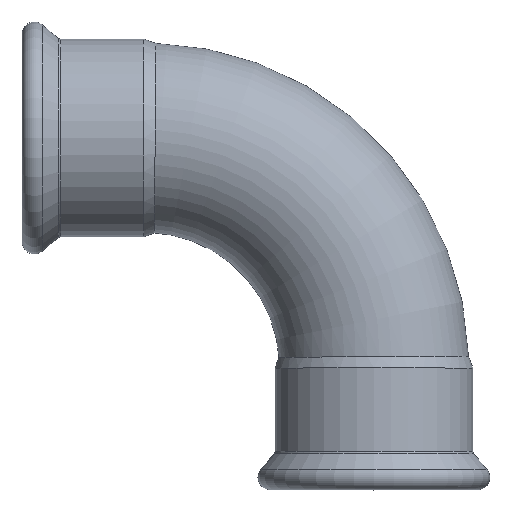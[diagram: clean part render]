
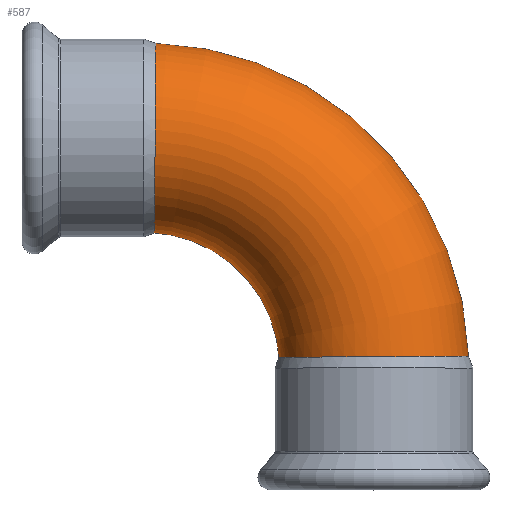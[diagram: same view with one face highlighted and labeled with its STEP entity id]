
A CAD part, top view. The second image highlights one B-rep face of the part: STEP entity #587.
In plain terms, the highlighted toroidal (fillet/blend) face has major radius 130 mm and minor radius 54 mm.
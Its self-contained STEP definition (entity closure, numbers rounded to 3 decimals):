
#496=CARTESIAN_POINT('',(0.0,0.0,0.0));
#497=DIRECTION('',(0.0,0.0,1.0));
#498=DIRECTION('',(0.725,-0.688,0.0));
#499=AXIS2_PLACEMENT_3D('',#496,#497,#498);
#500=TOROIDAL_SURFACE('',#499,130.,54.0);
#501=CARTESIAN_POINT('',(5.538,183.917,0.));
#502=VERTEX_POINT('',#501);
#503=CARTESIAN_POINT('',(5.538,183.917,0.));
#504=CARTESIAN_POINT('',(5.538,183.917,-7.024));
#505=CARTESIAN_POINT('',(5.534,182.546,-13.98));
#506=CARTESIAN_POINT('',(5.516,177.226,-26.956));
#507=CARTESIAN_POINT('',(5.502,173.336,-32.855));
#508=CARTESIAN_POINT('',(5.466,163.541,-42.819));
#509=CARTESIAN_POINT('',(5.443,157.737,-46.797));
#510=CARTESIAN_POINT('',(5.387,144.97,-52.316));
#511=CARTESIAN_POINT('',(5.354,138.131,-53.817));
#512=CARTESIAN_POINT('',(5.278,124.277,-54.151));
#513=CARTESIAN_POINT('',(5.237,117.39,-52.988));
#514=CARTESIAN_POINT('',(5.147,104.378,-48.11));
#515=CARTESIAN_POINT('',(5.099,98.38,-44.42));
#516=CARTESIAN_POINT('',(5.008,87.985,-34.841));
#517=CARTESIAN_POINT('',(4.965,83.737,-28.991));
#518=CARTESIAN_POINT('',(4.901,77.776,-15.99));
#519=CARTESIAN_POINT('',(4.882,76.117,-8.971));
#520=CARTESIAN_POINT('',(4.876,75.638,5.125));
#521=CARTESIAN_POINT('',(4.89,76.751,12.06));
#522=CARTESIAN_POINT('',(4.941,81.497,24.986));
#523=CARTESIAN_POINT('',(4.979,85.034,30.877));
#524=CARTESIAN_POINT('',(5.064,94.233,41.175));
#525=CARTESIAN_POINT('',(5.112,99.866,45.439));
#526=CARTESIAN_POINT('',(5.205,112.578,51.65));
#527=CARTESIAN_POINT('',(5.25,119.561,53.483));
#528=CARTESIAN_POINT('',(5.332,133.851,54.329));
#529=CARTESIAN_POINT('',(5.368,141.018,53.326));
#530=CARTESIAN_POINT('',(5.429,154.504,48.596));
#531=CARTESIAN_POINT('',(5.455,160.695,44.932));
#532=CARTESIAN_POINT('',(5.495,171.266,35.439));
#533=CARTESIAN_POINT('',(5.51,175.554,29.717));
#534=CARTESIAN_POINT('',(5.526,180.352,19.705));
#535=CARTESIAN_POINT('',(5.531,181.679,15.897));
#536=CARTESIAN_POINT('',(5.537,183.465,8.048));
#537=CARTESIAN_POINT('',(5.538,183.917,4.03));
#538=CARTESIAN_POINT('',(5.538,183.917,0.));
#539=B_SPLINE_CURVE_WITH_KNOTS('',3,(#503,#504,#505,#506,#507,#508,#509,#510,#511,#512,#513,#514,#515,#516,#517,#518,#519,#520,#521,#522,#523,#524,#525,#526,#527,#528,#529,#530,#531,#532,#533,#534,#535,#536,#537,#538),.UNSPECIFIED.,.T.,.U.,(4,2,2,2,2,2,2,2,2,2,2,2,2,2,2,2,2,4),(0.0,2.107,4.207,6.299,8.38,10.456,12.549,14.697,16.84,18.928,20.971,23.07,25.215,27.365,29.502,31.627,32.833,34.042),.UNSPECIFIED.);
#540=EDGE_CURVE('',#502,#502,#539,.T.);
#541=ORIENTED_EDGE('',*,*,#540,.F.);
#542=EDGE_LOOP('',(#541));
#543=FACE_OUTER_BOUND('',#542,.T.);
#544=CARTESIAN_POINT('',(183.917,5.538,0.));
#545=VERTEX_POINT('',#544);
#546=CARTESIAN_POINT('',(183.917,5.538,0.));
#547=CARTESIAN_POINT('',(183.917,5.538,7.024));
#548=CARTESIAN_POINT('',(182.546,5.534,13.98));
#549=CARTESIAN_POINT('',(177.226,5.516,26.956));
#550=CARTESIAN_POINT('',(173.336,5.502,32.855));
#551=CARTESIAN_POINT('',(163.541,5.466,42.819));
#552=CARTESIAN_POINT('',(157.737,5.443,46.797));
#553=CARTESIAN_POINT('',(144.97,5.387,52.316));
#554=CARTESIAN_POINT('',(138.131,5.354,53.817));
#555=CARTESIAN_POINT('',(124.277,5.278,54.151));
#556=CARTESIAN_POINT('',(117.39,5.237,52.988));
#557=CARTESIAN_POINT('',(104.378,5.147,48.11));
#558=CARTESIAN_POINT('',(98.38,5.099,44.42));
#559=CARTESIAN_POINT('',(87.985,5.008,34.841));
#560=CARTESIAN_POINT('',(83.737,4.965,28.991));
#561=CARTESIAN_POINT('',(77.776,4.901,15.99));
#562=CARTESIAN_POINT('',(76.117,4.882,8.971));
#563=CARTESIAN_POINT('',(75.638,4.876,-5.125));
#564=CARTESIAN_POINT('',(76.751,4.89,-12.06));
#565=CARTESIAN_POINT('',(81.497,4.941,-24.986));
#566=CARTESIAN_POINT('',(85.034,4.979,-30.877));
#567=CARTESIAN_POINT('',(94.233,5.064,-41.175));
#568=CARTESIAN_POINT('',(99.866,5.112,-45.439));
#569=CARTESIAN_POINT('',(112.578,5.205,-51.65));
#570=CARTESIAN_POINT('',(119.561,5.25,-53.483));
#571=CARTESIAN_POINT('',(133.851,5.332,-54.329));
#572=CARTESIAN_POINT('',(141.018,5.368,-53.326));
#573=CARTESIAN_POINT('',(154.504,5.429,-48.596));
#574=CARTESIAN_POINT('',(160.695,5.455,-44.932));
#575=CARTESIAN_POINT('',(171.266,5.495,-35.439));
#576=CARTESIAN_POINT('',(175.554,5.51,-29.717));
#577=CARTESIAN_POINT('',(180.352,5.526,-19.705));
#578=CARTESIAN_POINT('',(181.679,5.531,-15.897));
#579=CARTESIAN_POINT('',(183.465,5.537,-8.048));
#580=CARTESIAN_POINT('',(183.917,5.538,-4.03));
#581=CARTESIAN_POINT('',(183.917,5.538,0.0));
#582=B_SPLINE_CURVE_WITH_KNOTS('',3,(#546,#547,#548,#549,#550,#551,#552,#553,#554,#555,#556,#557,#558,#559,#560,#561,#562,#563,#564,#565,#566,#567,#568,#569,#570,#571,#572,#573,#574,#575,#576,#577,#578,#579,#580,#581),.UNSPECIFIED.,.T.,.U.,(4,2,2,2,2,2,2,2,2,2,2,2,2,2,2,2,2,4),(0.0,2.107,4.207,6.299,8.38,10.456,12.549,14.697,16.84,18.928,20.971,23.07,25.215,27.365,29.502,31.627,32.833,34.042),.UNSPECIFIED.);
#583=EDGE_CURVE('',#545,#545,#582,.T.);
#584=ORIENTED_EDGE('',*,*,#583,.F.);
#585=EDGE_LOOP('',(#584));
#586=FACE_BOUND('',#585,.T.);
#587=ADVANCED_FACE('',(#543,#586),#500,.T.);
